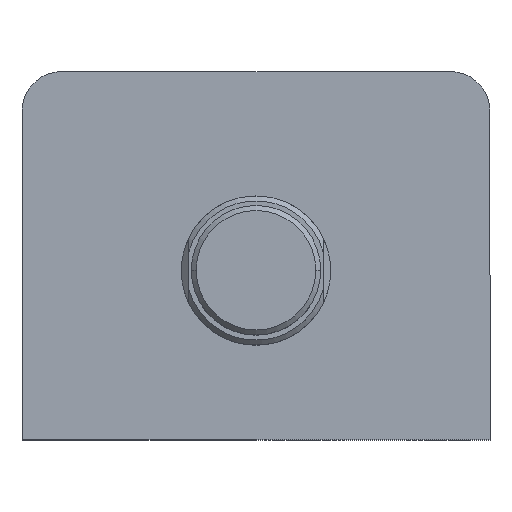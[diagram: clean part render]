
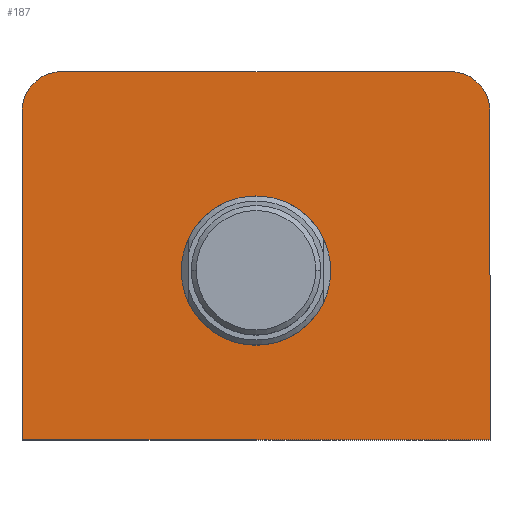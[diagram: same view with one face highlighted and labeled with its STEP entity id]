
A CAD part, top view. The second image highlights one B-rep face of the part: STEP entity #187.
In plain terms, the highlighted planar face has unit normal (0, 0, 1).
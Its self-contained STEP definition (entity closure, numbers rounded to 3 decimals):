
#85 = DIRECTION ( 'NONE',  ( 1., 0., 0. ) ) ;
#114 = PLANE ( 'NONE',  #261 ) ;
#152 = DIRECTION ( 'NONE',  ( 0., 0., 1. ) ) ;
#158 = CARTESIAN_POINT ( 'NONE',  ( 0., 0., 65. ) ) ;
#187 = ADVANCED_FACE ( 'NONE', ( #1782, #1762 ), #114, .T. ) ;
#261 = AXIS2_PLACEMENT_3D ( 'NONE', #158, #152, #85 ) ;
#326 = AXIS2_PLACEMENT_3D ( 'NONE', #1995, #1994, #1993 ) ;
#366 = EDGE_LOOP ( 'NONE', ( #439, #452, #451, #422, #423, #2636 ) ) ;
#422 = ORIENTED_EDGE ( 'NONE', *, *, #2273, .T. ) ;
#423 = ORIENTED_EDGE ( 'NONE', *, *, #2160, .T. ) ;
#439 = ORIENTED_EDGE ( 'NONE', *, *, #2140, .T. ) ;
#449 = ORIENTED_EDGE ( 'NONE', *, *, #2274, .F. ) ;
#451 = ORIENTED_EDGE ( 'NONE', *, *, #1415, .T. ) ;
#452 = ORIENTED_EDGE ( 'NONE', *, *, #1608, .T. ) ;
#495 = EDGE_LOOP ( 'NONE', ( #449, #2658 ) ) ;
#751 = CIRCLE ( 'NONE', #326, 8. ) ;
#921 = LINE ( 'NONE', #1141, #923 ) ;
#922 = CIRCLE ( 'NONE', #1019, 15. ) ;
#923 = VECTOR ( 'NONE', #1142, 1000. ) ;
#945 = AXIS2_PLACEMENT_3D ( 'NONE', #1583, #1582, #1580 ) ;
#966 = AXIS2_PLACEMENT_3D ( 'NONE', #1751, #1746, #1665 ) ;
#1019 = AXIS2_PLACEMENT_3D ( 'NONE', #1150, #1151, #1152 ) ;
#1141 = CARTESIAN_POINT ( 'NONE',  ( -47., -37., 65. ) ) ;
#1142 = DIRECTION ( 'NONE',  ( 1., 0., 0. ) ) ;
#1150 = CARTESIAN_POINT ( 'NONE',  ( 0., -3., 65. ) ) ;
#1151 = DIRECTION ( 'NONE',  ( 0., 0., 1. ) ) ;
#1152 = DIRECTION ( 'NONE',  ( 1., 0., 0. ) ) ;
#1251 = EDGE_CURVE ( 'NONE', #1844, #1924, #751, .T. ) ;
#1272 = CIRCLE ( 'NONE', #966, 15. ) ;
#1303 = VECTOR ( 'NONE', #2323, 1000. ) ;
#1306 = LINE ( 'NONE', #2370, #1303 ) ;
#1340 = VECTOR ( 'NONE', #2403, 1000. ) ;
#1343 = LINE ( 'NONE', #2304, #1340 ) ;
#1382 = CIRCLE ( 'NONE', #945, 8. ) ;
#1405 = VECTOR ( 'NONE', #1963, 1000. ) ;
#1406 = LINE ( 'NONE', #1964, #1405 ) ;
#1415 = EDGE_CURVE ( 'NONE', #1855, #1805, #1406, .T. ) ;
#1448 = CARTESIAN_POINT ( 'NONE',  ( 47., -37., 65. ) ) ;
#1470 = CARTESIAN_POINT ( 'NONE',  ( -47., 29., 65. ) ) ;
#1485 = CARTESIAN_POINT ( 'NONE',  ( 47., 29., 65. ) ) ;
#1532 = CARTESIAN_POINT ( 'NONE',  ( -47., -37., 65. ) ) ;
#1537 = CARTESIAN_POINT ( 'NONE',  ( -15., -3., 65. ) ) ;
#1554 = CARTESIAN_POINT ( 'NONE',  ( 15., -3., 65. ) ) ;
#1580 = DIRECTION ( 'NONE',  ( 1., 0., 0. ) ) ;
#1582 = DIRECTION ( 'NONE',  ( 0., 0., 1. ) ) ;
#1583 = CARTESIAN_POINT ( 'NONE',  ( -39., 29., 65. ) ) ;
#1608 = EDGE_CURVE ( 'NONE', #1926, #1855, #1382, .T. ) ;
#1665 = DIRECTION ( 'NONE',  ( 1., 0., 0. ) ) ;
#1746 = DIRECTION ( 'NONE',  ( 0., 0., 1. ) ) ;
#1751 = CARTESIAN_POINT ( 'NONE',  ( 0., -3., 65. ) ) ;
#1762 = FACE_OUTER_BOUND ( 'NONE', #366, .T. ) ;
#1782 = FACE_BOUND ( 'NONE', #495, .T. ) ;
#1805 = VERTEX_POINT ( 'NONE', #1532 ) ;
#1808 = VERTEX_POINT ( 'NONE', #1537 ) ;
#1810 = VERTEX_POINT ( 'NONE', #1554 ) ;
#1844 = VERTEX_POINT ( 'NONE', #1485 ) ;
#1855 = VERTEX_POINT ( 'NONE', #1470 ) ;
#1875 = VERTEX_POINT ( 'NONE', #1448 ) ;
#1924 = VERTEX_POINT ( 'NONE', #2348 ) ;
#1926 = VERTEX_POINT ( 'NONE', #2372 ) ;
#1963 = DIRECTION ( 'NONE',  ( 0., -1., 0. ) ) ;
#1964 = CARTESIAN_POINT ( 'NONE',  ( -47., 37., 65. ) ) ;
#1993 = DIRECTION ( 'NONE',  ( 1., 0., 0. ) ) ;
#1994 = DIRECTION ( 'NONE',  ( 0., 0., 1. ) ) ;
#1995 = CARTESIAN_POINT ( 'NONE',  ( 39., 29., 65. ) ) ;
#2140 = EDGE_CURVE ( 'NONE', #1924, #1926, #1343, .T. ) ;
#2160 = EDGE_CURVE ( 'NONE', #1875, #1844, #1306, .T. ) ;
#2182 = EDGE_CURVE ( 'NONE', #1808, #1810, #1272, .T. ) ;
#2273 = EDGE_CURVE ( 'NONE', #1805, #1875, #921, .T. ) ;
#2274 = EDGE_CURVE ( 'NONE', #1810, #1808, #922, .T. ) ;
#2304 = CARTESIAN_POINT ( 'NONE',  ( -47., 37., 65. ) ) ;
#2323 = DIRECTION ( 'NONE',  ( 0., 1., 0. ) ) ;
#2348 = CARTESIAN_POINT ( 'NONE',  ( 39., 37., 65. ) ) ;
#2370 = CARTESIAN_POINT ( 'NONE',  ( 47., 37., 65. ) ) ;
#2372 = CARTESIAN_POINT ( 'NONE',  ( -39., 37., 65. ) ) ;
#2403 = DIRECTION ( 'NONE',  ( -1., 0., 0. ) ) ;
#2636 = ORIENTED_EDGE ( 'NONE', *, *, #1251, .T. ) ;
#2658 = ORIENTED_EDGE ( 'NONE', *, *, #2182, .F. ) ;
